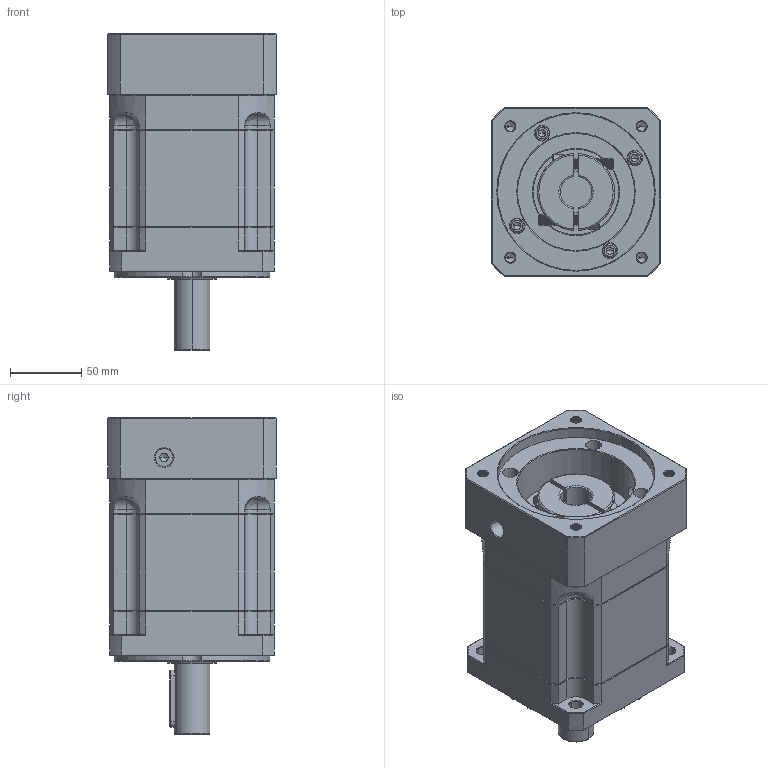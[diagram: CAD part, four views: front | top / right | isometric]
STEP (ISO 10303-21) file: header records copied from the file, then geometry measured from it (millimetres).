
FILE_DESCRIPTION (( 'STEP AP214' ), '1' );
FILE_NAME ('ZB115A-D25-L2-22-110-130-M8.step', '2023-03-02T08:57:19', ( '' ), ( 'Microsoft' ), 'SwSTEP 2.0', 'SolidWorks 2016', '' );
FILE_SCHEMA (( 'AUTOMOTIVE_DESIGN' ));
Length unit declared in the file: millimetre
Products named in the file (1): ZB115A-D25-L2-22-110-130-M8
Bounding box: 118 x 118 x 222 mm (x, y, z)
Volume: 1874414.5 mm3; surface area: 181433.1 mm2
Topology: 6 solids, 6 shells, 2118 faces, 5466 edges, 3443 vertices
Faces by surface type: plane 964, cylinder 441, cone 368, bspline 325, torus 20
Entity records: 113189 total; most frequent: CARTESIAN_POINT 41193, ORIENTED_EDGE 10864, DIRECTION 8919, EDGE_CURVE 5432, VERTEX_POINT 3443, LINE 3375, VECTOR 3375, AXIS2_PLACEMENT_3D 2772
